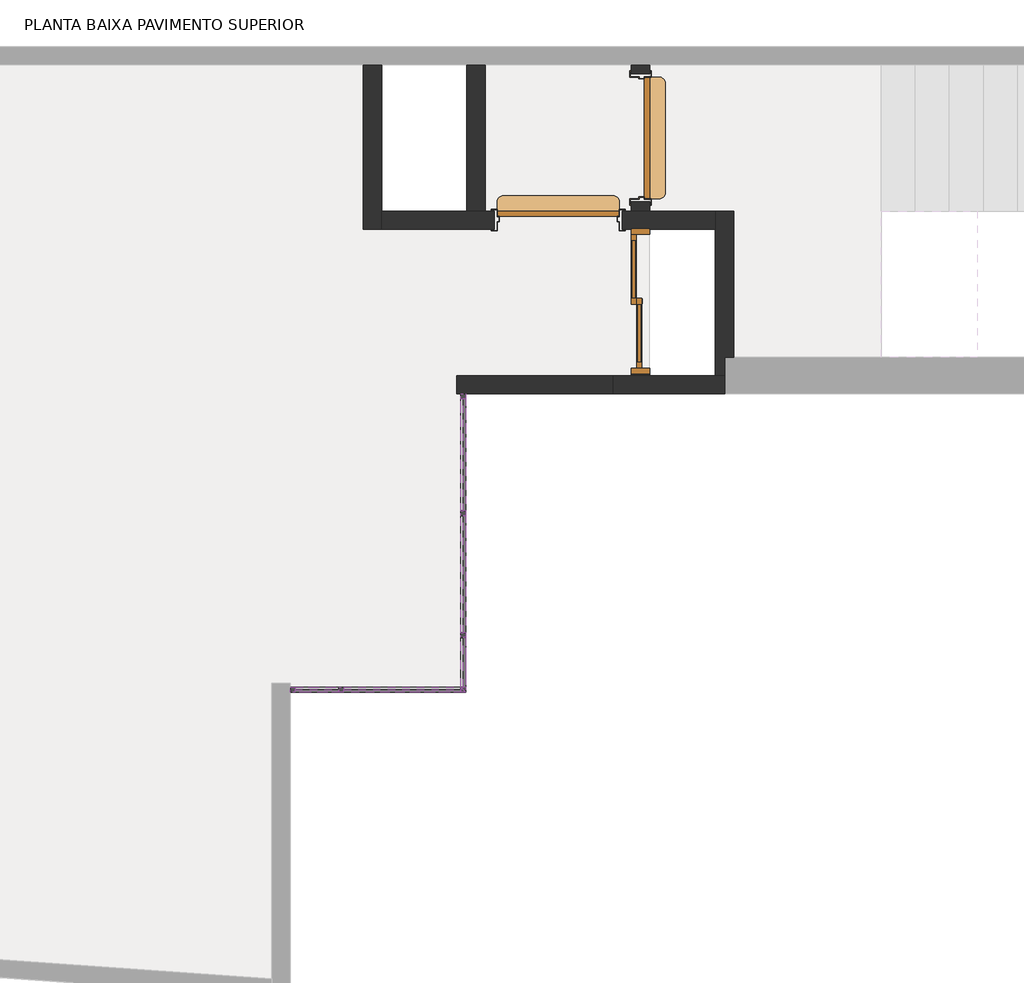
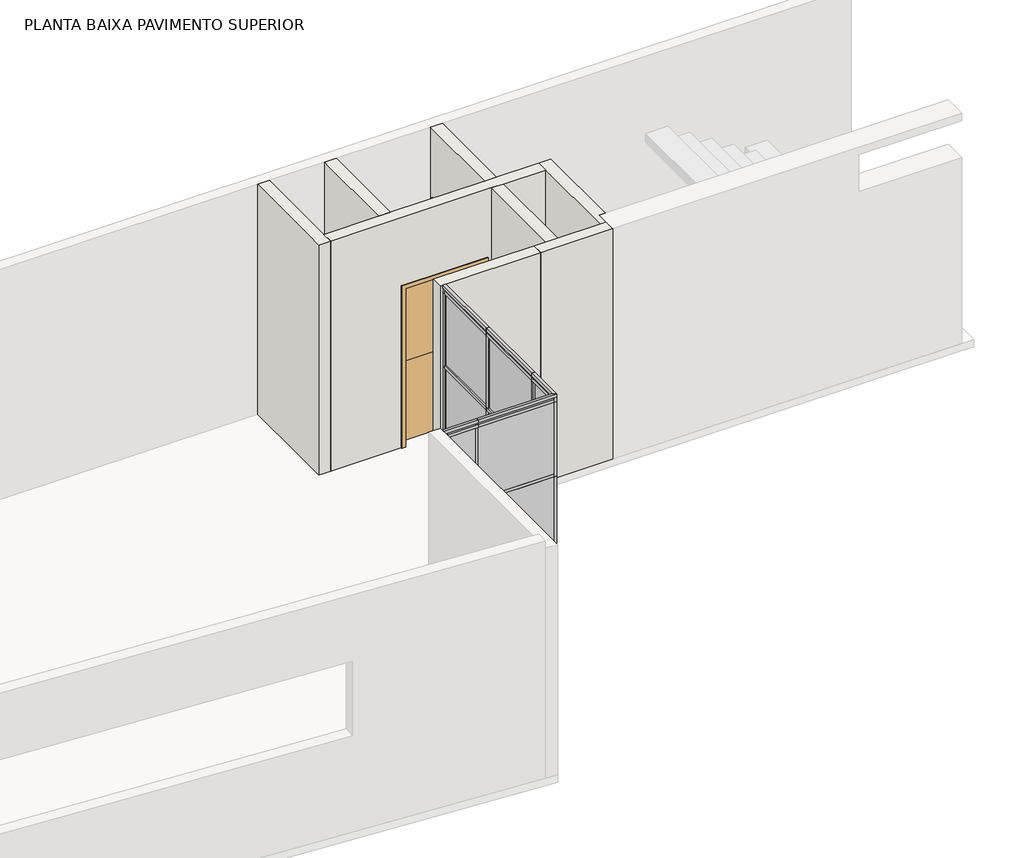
# One storey, part 3 of 4: 53 members, 20 plates, 8 walls, 3 doors.
"""IFC4 building model written with IfcOpenShell, lengths in millimetres."""

from ifc_helpers import new_model, si_unit, frame, origin, place, context, project, spatial, polyline, outline, extrude, faceted_brep, transform, mapped, element, save
from components import door_100_x_210_cm_7dd9b6bc, door_1200_x_2100mm_dfe7479b, rectangular_mullion_4x4_cm_offset_2cm_3eb18034, rectangular_mullion_4x4_cm_offset_2cm_f367b127, rectangular_mullion_4x4_cm_offset_2cm_0519d578, rectangular_mullion_4x4_cm_offset_2cm_ddc5f716, rectangular_mullion_4x4_cm_offset_2cm_dcd03643, rectangular_mullion_4x4_cm_offset_2cm_9d20afd9, rectangular_mullion_4x4_cm_offset_2cm_7fa27b69, rectangular_mullion_4x4_cm_offset_2cm_bcd7c595, rectangular_mullion_4x4_cm_offset_2cm_f339643f, rectangular_mullion_4x4_cm_offset_2cm_86c1dae4, rectangular_mullion_4x4_cm_offset_2cm_71549611, rectangular_mullion_4x4_cm_offset_2cm_498bcaa4, rectangular_mullion_4x4_cm_offset_2cm_4437fab8, rectangular_mullion_4x4_cm_offset_2cm_959dc065, rectangular_mullion_4x4_cm_offset_2cm_072c56ac, rectangular_mullion_4x4_cm_offset_2cm_564ef1b8, system_panel_vidro_2cm_7b007d6b, system_panel_vidro_2cm_5412c861, system_panel_vidro_2cm_9368d487, system_panel_vidro_2cm_80f5f5df, system_panel_vidro_2cm_fbaab53a, system_panel_vidro_2cm_d7178376, system_panel_vidro_2cm_d83b4e50, system_panel_vidro_2cm_3061dd5e

model = new_model("IFC4")

# Units and contexts
model_context = context("Model", 3, world=origin())
ifc_project = project(units=[si_unit("LENGTHUNIT", "METRE", prefix="MILLI")], contexts=[model_context])

# Site, building, storey
site = spatial("IfcSite", under=ifc_project)
building = spatial("IfcBuilding", under=site)
storey = spatial("IfcBuildingStorey", under=building, Name="PLANTA BAIXA PAVIMENTO SUPERIOR", Elevation=4000.0)

# Doors
placement = place(None, origin())
door_100_x_210_cm_shape = door_100_x_210_cm_7dd9b6bc(model_context)
element("IfcDoor", 1, ObjectType="Dutch_door_-_2_stacked_leaves_2298 : 100 x 210 cm", at=placement, inside=storey, context=model_context, shape_type="MappedRepresentation", body=[
    mapped(door_100_x_210_cm_shape, transform((36795.3673655, -4166.1116245, 4000.0), x_axis=(-1.0, 0.0, 0.0), y_axis=(0.0, -1.0, 0.0), z_axis=(0.0, 0.0, 1.0))),
])
element("IfcDoor", 2, ObjectType="Dutch_door_-_2_stacked_leaves_2298 : 100 x 210 cm", at=placement, inside=storey, context=model_context, shape_type="MappedRepresentation", body=[
    mapped(door_100_x_210_cm_shape, transform((37470.3673655, -3491.1116245, 4000.0), x_axis=(0.0, 1.0, 0.0), y_axis=(-1.0, 0.0, 0.0), z_axis=(0.0, 0.0, 1.0))),
])
door_1200_x_2100mm_shape = door_1200_x_2100mm_dfe7479b(model_context)
element("IfcDoor", 3, ObjectType="Porta veneziana de correr dupla sem revestimento : 1200 x 2100mm", at=placement, inside=storey, context=model_context, shape_type="MappedRepresentation", body=[
    mapped(door_1200_x_2100mm_shape, transform((37470.3673655, -4830.8070741, 4000.0), x_axis=(0.0, -1.0, 0.0), y_axis=(1.0, 0.0, 0.0), z_axis=(0.0, 0.0, 1.0))),
])

# Members
rectangular_mullion_4x4_cm_offset_2cm_shape = rectangular_mullion_4x4_cm_offset_2cm_3eb18034(model_context)
element("IfcMember", 4, ObjectType="Rectangular Mullion : 4x4 cm - offset 2cm", at=placement, inside=storey, context=model_context, shape_type="MappedRepresentation", body=[
    mapped(rectangular_mullion_4x4_cm_offset_2cm_shape, transform((35035.3673652, -8041.1116245, 5000.0), x_axis=(0.0, 0.0, 1.0), y_axis=(0.0, 1.0, 0.0), z_axis=(-1.0, 0.0, 0.0))),
])
element("IfcMember", 5, ObjectType="Rectangular Mullion : 4x4 cm - offset 2cm", at=placement, inside=storey, context=model_context, shape_type="MappedRepresentation", body=[
    mapped(rectangular_mullion_4x4_cm_offset_2cm_shape, transform((35035.3673652, -8041.1116245, 6000.0), x_axis=(0.0, 0.0, 1.0), y_axis=(0.0, 1.0, 0.0), z_axis=(-1.0, 0.0, 0.0))),
])
element("IfcMember", 6, ObjectType="Rectangular Mullion : 4x4 cm - offset 2cm", at=placement, inside=storey, context=model_context, shape_type="MappedRepresentation", body=[
    mapped(rectangular_mullion_4x4_cm_offset_2cm_shape, transform((35035.3673652, -8041.1116245, 7000.0), x_axis=(0.0, 0.0, 1.0), y_axis=(0.0, 1.0, 0.0), z_axis=(-1.0, 0.0, 0.0))),
])
rectangular_mullion_4x4_cm_offset_2cm_2_shape = rectangular_mullion_4x4_cm_offset_2cm_f367b127(model_context)
element("IfcMember", 7, ObjectType="Rectangular Mullion : 4x4 cm - offset 2cm", at=placement, inside=storey, context=model_context, shape_type="MappedRepresentation", body=[
    mapped(rectangular_mullion_4x4_cm_offset_2cm_2_shape, transform((36035.3673655, -6551.1116248, 4040.0), x_axis=(0.0, -1.0, 0.0), y_axis=(-1.0, 0.0, 0.0), z_axis=(0.0, 0.0, -1.0))),
])
element("IfcMember", 8, ObjectType="Rectangular Mullion : 4x4 cm - offset 2cm", at=placement, inside=storey, context=model_context, shape_type="MappedRepresentation", body=[
    mapped(rectangular_mullion_4x4_cm_offset_2cm_2_shape, transform((36035.3673655, -7551.1116248, 4040.0), x_axis=(0.0, -1.0, 0.0), y_axis=(-1.0, 0.0, 0.0), z_axis=(0.0, 0.0, -1.0))),
])
element("IfcMember", 9, ObjectType="Rectangular Mullion : 4x4 cm - offset 2cm", at=placement, inside=storey, context=model_context, shape_type="MappedRepresentation", body=[
    mapped(rectangular_mullion_4x4_cm_offset_2cm_2_shape, transform((36035.3673655, -6551.1116248, 5040.0), x_axis=(0.0, -1.0, 0.0), y_axis=(-1.0, 0.0, 0.0), z_axis=(0.0, 0.0, -1.0))),
])
element("IfcMember", 10, ObjectType="Rectangular Mullion : 4x4 cm - offset 2cm", at=placement, inside=storey, context=model_context, shape_type="MappedRepresentation", body=[
    mapped(rectangular_mullion_4x4_cm_offset_2cm_2_shape, transform((36035.3673655, -7551.1116248, 5040.0), x_axis=(0.0, -1.0, 0.0), y_axis=(-1.0, 0.0, 0.0), z_axis=(0.0, 0.0, -1.0))),
])
element("IfcMember", 11, ObjectType="Rectangular Mullion : 4x4 cm - offset 2cm", at=placement, inside=storey, context=model_context, shape_type="MappedRepresentation", body=[
    mapped(rectangular_mullion_4x4_cm_offset_2cm_2_shape, transform((36035.3673655, -6551.1116248, 6040.0), x_axis=(0.0, -1.0, 0.0), y_axis=(-1.0, 0.0, 0.0), z_axis=(0.0, 0.0, -1.0))),
])
element("IfcMember", 12, ObjectType="Rectangular Mullion : 4x4 cm - offset 2cm", at=placement, inside=storey, context=model_context, shape_type="MappedRepresentation", body=[
    mapped(rectangular_mullion_4x4_cm_offset_2cm_2_shape, transform((36035.3673655, -7551.1116248, 6040.0), x_axis=(0.0, -1.0, 0.0), y_axis=(-1.0, 0.0, 0.0), z_axis=(0.0, 0.0, -1.0))),
])
element("IfcMember", 13, ObjectType="Rectangular Mullion : 4x4 cm - offset 2cm", at=placement, inside=storey, context=model_context, shape_type="MappedRepresentation", body=[
    mapped(rectangular_mullion_4x4_cm_offset_2cm_2_shape, transform((35035.3673652, -8041.1116245, 4040.0), x_axis=(-1.0, 0.0, 0.0), y_axis=(0.0, 1.0, 0.0), z_axis=(0.0, 0.0, -1.0))),
])
element("IfcMember", 14, ObjectType="Rectangular Mullion : 4x4 cm - offset 2cm", at=placement, inside=storey, context=model_context, shape_type="MappedRepresentation", body=[
    mapped(rectangular_mullion_4x4_cm_offset_2cm_2_shape, transform((35035.3673652, -8041.1116245, 5040.0), x_axis=(-1.0, 0.0, 0.0), y_axis=(0.0, 1.0, 0.0), z_axis=(0.0, 0.0, -1.0))),
])
element("IfcMember", 15, ObjectType="Rectangular Mullion : 4x4 cm - offset 2cm", at=placement, inside=storey, context=model_context, shape_type="MappedRepresentation", body=[
    mapped(rectangular_mullion_4x4_cm_offset_2cm_2_shape, transform((35035.3673652, -8041.1116245, 6040.0), x_axis=(-1.0, 0.0, 0.0), y_axis=(0.0, 1.0, 0.0), z_axis=(0.0, 0.0, -1.0))),
])
rectangular_mullion_4x4_cm_offset_2cm_3_shape = rectangular_mullion_4x4_cm_offset_2cm_0519d578(model_context)
element("IfcMember", 16, ObjectType="Rectangular Mullion : 4x4 cm - offset 2cm", at=placement, inside=storey, context=model_context, shape_type="MappedRepresentation", body=[
    mapped(rectangular_mullion_4x4_cm_offset_2cm_3_shape, transform((36035.3673655, -8041.1116245, 4040.0), x_axis=(0.0, -1.0, 0.0), y_axis=(-1.0, 0.0, 0.0), z_axis=(0.0, 0.0, -1.0))),
])
element("IfcMember", 17, ObjectType="Rectangular Mullion : 4x4 cm - offset 2cm", at=placement, inside=storey, context=model_context, shape_type="MappedRepresentation", body=[
    mapped(rectangular_mullion_4x4_cm_offset_2cm_3_shape, transform((34595.3673655, -8041.1116245, 4040.0), x_axis=(-1.0, 0.0, 0.0), y_axis=(0.0, 1.0, 0.0), z_axis=(0.0, 0.0, -1.0))),
])
element("IfcMember", 18, ObjectType="Rectangular Mullion : 4x4 cm - offset 2cm", at=placement, inside=storey, context=model_context, shape_type="MappedRepresentation", body=[
    mapped(rectangular_mullion_4x4_cm_offset_2cm_3_shape, transform((36035.3673655, -5591.1116245, 5000.0), x_axis=(0.0, 1.0, 0.0), y_axis=(-1.0, 0.0, 0.0), z_axis=(0.0, 0.0, 1.0))),
])
element("IfcMember", 19, ObjectType="Rectangular Mullion : 4x4 cm - offset 2cm", at=placement, inside=storey, context=model_context, shape_type="MappedRepresentation", body=[
    mapped(rectangular_mullion_4x4_cm_offset_2cm_3_shape, transform((36035.3673655, -8041.1116245, 5000.0), x_axis=(1.0, 0.0, 0.0), y_axis=(0.0, 1.0, 0.0), z_axis=(0.0, 0.0, 1.0))),
])
rectangular_mullion_4x4_cm_offset_2cm_4_shape = rectangular_mullion_4x4_cm_offset_2cm_ddc5f716(model_context)
element("IfcMember", 20, ObjectType="Rectangular Mullion : 4x4 cm - offset 2cm", at=placement, inside=storey, context=model_context, shape_type="MappedRepresentation", body=[
    mapped(rectangular_mullion_4x4_cm_offset_2cm_4_shape, transform((36035.3673655, -6551.1116248, 4000.0), x_axis=(0.0, 0.0, -1.0), y_axis=(-1.0, 0.0, 0.0), z_axis=(0.0, 1.0, 0.0))),
])
rectangular_mullion_4x4_cm_offset_2cm_5_shape = rectangular_mullion_4x4_cm_offset_2cm_dcd03643(model_context)
element("IfcMember", 21, ObjectType="Rectangular Mullion : 4x4 cm - offset 2cm", at=placement, inside=storey, context=model_context, shape_type="MappedRepresentation", body=[
    mapped(rectangular_mullion_4x4_cm_offset_2cm_5_shape, transform((36035.3673655, -7551.1116248, 5000.0), x_axis=(0.0, 0.0, 1.0), y_axis=(-1.0, 0.0, 0.0), z_axis=(0.0, -1.0, 0.0))),
])
element("IfcMember", 22, ObjectType="Rectangular Mullion : 4x4 cm - offset 2cm", at=placement, inside=storey, context=model_context, shape_type="MappedRepresentation", body=[
    mapped(rectangular_mullion_4x4_cm_offset_2cm_5_shape, transform((36035.3673655, -7551.1116248, 6000.0), x_axis=(0.0, 0.0, 1.0), y_axis=(-1.0, 0.0, 0.0), z_axis=(0.0, -1.0, 0.0))),
])
element("IfcMember", 23, ObjectType="Rectangular Mullion : 4x4 cm - offset 2cm", at=placement, inside=storey, context=model_context, shape_type="MappedRepresentation", body=[
    mapped(rectangular_mullion_4x4_cm_offset_2cm_5_shape, transform((36035.3673655, -7551.1116248, 7000.0), x_axis=(0.0, 0.0, 1.0), y_axis=(-1.0, 0.0, 0.0), z_axis=(0.0, -1.0, 0.0))),
])
element("IfcMember", 24, ObjectType="Rectangular Mullion : 4x4 cm - offset 2cm", at=placement, inside=storey, context=model_context, shape_type="MappedRepresentation", body=[
    mapped(rectangular_mullion_4x4_cm_offset_2cm_4_shape, transform((36035.3673655, -7551.1116248, 7100.0), x_axis=(0.0, 0.0, 1.0), y_axis=(-1.0, 0.0, 0.0), z_axis=(0.0, -1.0, 0.0))),
])
element("IfcMember", 25, ObjectType="Rectangular Mullion : 4x4 cm - offset 2cm", at=placement, inside=storey, context=model_context, shape_type="MappedRepresentation", body=[
    mapped(rectangular_mullion_4x4_cm_offset_2cm_4_shape, transform((36035.3673655, -8041.1116245, 5000.0), x_axis=(0.0, -1.0, 0.0), y_axis=(-1.0, 0.0, 0.0), z_axis=(0.0, 0.0, -1.0))),
])
element("IfcMember", 26, ObjectType="Rectangular Mullion : 4x4 cm - offset 2cm", at=placement, inside=storey, context=model_context, shape_type="MappedRepresentation", body=[
    mapped(rectangular_mullion_4x4_cm_offset_2cm_4_shape, transform((36035.3673655, -8041.1116245, 6000.0), x_axis=(0.0, -1.0, 0.0), y_axis=(-1.0, 0.0, 0.0), z_axis=(0.0, 0.0, -1.0))),
])
element("IfcMember", 27, ObjectType="Rectangular Mullion : 4x4 cm - offset 2cm", at=placement, inside=storey, context=model_context, shape_type="MappedRepresentation", body=[
    mapped(rectangular_mullion_4x4_cm_offset_2cm_4_shape, transform((34595.3673655, -8041.1116245, 5000.0), x_axis=(-1.0, 0.0, 0.0), y_axis=(0.0, 1.0, 0.0), z_axis=(0.0, 0.0, -1.0))),
])
element("IfcMember", 28, ObjectType="Rectangular Mullion : 4x4 cm - offset 2cm", at=placement, inside=storey, context=model_context, shape_type="MappedRepresentation", body=[
    mapped(rectangular_mullion_4x4_cm_offset_2cm_4_shape, transform((34595.3673655, -8041.1116245, 6000.0), x_axis=(-1.0, 0.0, 0.0), y_axis=(0.0, 1.0, 0.0), z_axis=(0.0, 0.0, -1.0))),
])
element("IfcMember", 29, ObjectType="Rectangular Mullion : 4x4 cm - offset 2cm", at=placement, inside=storey, context=model_context, shape_type="MappedRepresentation", body=[
    mapped(rectangular_mullion_4x4_cm_offset_2cm_4_shape, transform((36035.3673655, -5591.1116245, 6000.0), x_axis=(0.0, 1.0, 0.0), y_axis=(-1.0, 0.0, 0.0), z_axis=(0.0, 0.0, 1.0))),
])
element("IfcMember", 30, ObjectType="Rectangular Mullion : 4x4 cm - offset 2cm", at=placement, inside=storey, context=model_context, shape_type="MappedRepresentation", body=[
    mapped(rectangular_mullion_4x4_cm_offset_2cm_4_shape, transform((36035.3673655, -5591.1116245, 7000.0), x_axis=(0.0, 1.0, 0.0), y_axis=(-1.0, 0.0, 0.0), z_axis=(0.0, 0.0, 1.0))),
])
element("IfcMember", 31, ObjectType="Rectangular Mullion : 4x4 cm - offset 2cm", at=placement, inside=storey, context=model_context, shape_type="MappedRepresentation", body=[
    mapped(rectangular_mullion_4x4_cm_offset_2cm_4_shape, transform((36035.3673655, -8041.1116245, 6000.0), x_axis=(1.0, 0.0, 0.0), y_axis=(0.0, 1.0, 0.0), z_axis=(0.0, 0.0, 1.0))),
])
element("IfcMember", 32, ObjectType="Rectangular Mullion : 4x4 cm - offset 2cm", at=placement, inside=storey, context=model_context, shape_type="MappedRepresentation", body=[
    mapped(rectangular_mullion_4x4_cm_offset_2cm_4_shape, transform((36035.3673655, -8041.1116245, 7000.0), x_axis=(1.0, 0.0, 0.0), y_axis=(0.0, 1.0, 0.0), z_axis=(0.0, 0.0, 1.0))),
])
rectangular_mullion_4x4_cm_offset_2cm_6_shape = rectangular_mullion_4x4_cm_offset_2cm_9d20afd9(model_context)
element("IfcMember", 33, ObjectType="Rectangular Mullion : 4x4 cm - offset 2cm", at=placement, inside=storey, context=model_context, shape_type="MappedRepresentation", body=[
    mapped(rectangular_mullion_4x4_cm_offset_2cm_6_shape, transform((36035.3673655, -6551.1116248, 7040.0), x_axis=(0.0, -1.0, 0.0), y_axis=(-1.0, 0.0, 0.0), z_axis=(0.0, 0.0, -1.0))),
])
element("IfcMember", 34, ObjectType="Rectangular Mullion : 4x4 cm - offset 2cm", at=placement, inside=storey, context=model_context, shape_type="MappedRepresentation", body=[
    mapped(rectangular_mullion_4x4_cm_offset_2cm_6_shape, transform((36035.3673655, -7551.1116248, 7040.0), x_axis=(0.0, -1.0, 0.0), y_axis=(-1.0, 0.0, 0.0), z_axis=(0.0, 0.0, -1.0))),
])
element("IfcMember", 35, ObjectType="Rectangular Mullion : 4x4 cm - offset 2cm", at=placement, inside=storey, context=model_context, shape_type="MappedRepresentation", body=[
    mapped(rectangular_mullion_4x4_cm_offset_2cm_6_shape, transform((35035.3673652, -8041.1116245, 7040.0), x_axis=(-1.0, 0.0, 0.0), y_axis=(0.0, 1.0, 0.0), z_axis=(0.0, 0.0, -1.0))),
])
rectangular_mullion_4x4_cm_offset_2cm_7_shape = rectangular_mullion_4x4_cm_offset_2cm_7fa27b69(model_context)
element("IfcMember", 36, ObjectType="Rectangular Mullion : 4x4 cm - offset 2cm", at=placement, inside=storey, context=model_context, shape_type="MappedRepresentation", body=[
    mapped(rectangular_mullion_4x4_cm_offset_2cm_7_shape, transform((36035.3673655, -5591.1116245, 7060.0), x_axis=(0.0, 1.0, 0.0), y_axis=(-1.0, 0.0, 0.0), z_axis=(0.0, 0.0, 1.0))),
])
element("IfcMember", 37, ObjectType="Rectangular Mullion : 4x4 cm - offset 2cm", at=placement, inside=storey, context=model_context, shape_type="MappedRepresentation", body=[
    mapped(rectangular_mullion_4x4_cm_offset_2cm_7_shape, transform((36035.3673655, -8041.1116245, 7060.0), x_axis=(1.0, 0.0, 0.0), y_axis=(0.0, 1.0, 0.0), z_axis=(0.0, 0.0, 1.0))),
])
element("IfcMember", 38, ObjectType="Rectangular Mullion : 4x4 cm - offset 2cm", at=placement, inside=storey, context=model_context, shape_type="MappedRepresentation", body=[
    mapped(rectangular_mullion_4x4_cm_offset_2cm_7_shape, transform((36035.3673655, -8041.1116245, 7000.0), x_axis=(0.0, -1.0, 0.0), y_axis=(-1.0, 0.0, 0.0), z_axis=(0.0, 0.0, -1.0))),
])
element("IfcMember", 39, ObjectType="Rectangular Mullion : 4x4 cm - offset 2cm", at=placement, inside=storey, context=model_context, shape_type="MappedRepresentation", body=[
    mapped(rectangular_mullion_4x4_cm_offset_2cm_7_shape, transform((34595.3673655, -8041.1116245, 7000.0), x_axis=(-1.0, 0.0, 0.0), y_axis=(0.0, 1.0, 0.0), z_axis=(0.0, 0.0, -1.0))),
])
rectangular_mullion_4x4_cm_offset_2cm_8_shape = rectangular_mullion_4x4_cm_offset_2cm_bcd7c595(model_context)
element("IfcMember", 40, ObjectType="Rectangular Mullion : 4x4 cm - offset 2cm", at=placement, inside=storey, context=model_context, shape_type="MappedRepresentation", body=[
    mapped(rectangular_mullion_4x4_cm_offset_2cm_8_shape, transform((36035.3673655, -5591.1116245, 4000.0), x_axis=(0.0, 0.0, -1.0), y_axis=(-1.0, 0.0, 0.0), z_axis=(0.0, 1.0, 0.0))),
])
element("IfcMember", 41, ObjectType="Rectangular Mullion : 4x4 cm - offset 2cm", at=placement, inside=storey, context=model_context, shape_type="MappedRepresentation", body=[
    mapped(rectangular_mullion_4x4_cm_offset_2cm_8_shape, transform((36035.3673655, -6551.1116248, 7100.0), x_axis=(0.0, 0.0, 1.0), y_axis=(-1.0, 0.0, 0.0), z_axis=(0.0, -1.0, 0.0))),
])
rectangular_mullion_4x4_cm_offset_2cm_9_shape = rectangular_mullion_4x4_cm_offset_2cm_f339643f(model_context)
element("IfcMember", 42, ObjectType="Rectangular Mullion : 4x4 cm - offset 2cm", at=placement, inside=storey, context=model_context, shape_type="MappedRepresentation", body=[
    mapped(rectangular_mullion_4x4_cm_offset_2cm_9_shape, transform((36035.3673655, -6551.1116248, 5000.0), x_axis=(0.0, 0.0, 1.0), y_axis=(-1.0, 0.0, 0.0), z_axis=(0.0, -1.0, 0.0))),
])
element("IfcMember", 43, ObjectType="Rectangular Mullion : 4x4 cm - offset 2cm", at=placement, inside=storey, context=model_context, shape_type="MappedRepresentation", body=[
    mapped(rectangular_mullion_4x4_cm_offset_2cm_9_shape, transform((36035.3673655, -6551.1116248, 6000.0), x_axis=(0.0, 0.0, 1.0), y_axis=(-1.0, 0.0, 0.0), z_axis=(0.0, -1.0, 0.0))),
])
element("IfcMember", 44, ObjectType="Rectangular Mullion : 4x4 cm - offset 2cm", at=placement, inside=storey, context=model_context, shape_type="MappedRepresentation", body=[
    mapped(rectangular_mullion_4x4_cm_offset_2cm_9_shape, transform((36035.3673655, -6551.1116248, 7000.0), x_axis=(0.0, 0.0, 1.0), y_axis=(-1.0, 0.0, 0.0), z_axis=(0.0, -1.0, 0.0))),
])
rectangular_mullion_4x4_cm_offset_2cm_10_shape = rectangular_mullion_4x4_cm_offset_2cm_86c1dae4(model_context)
element("IfcMember", 45, ObjectType="Rectangular Mullion : 4x4 cm - offset 2cm", at=placement, inside=storey, context=model_context, shape_type="MappedRepresentation", body=[
    mapped(rectangular_mullion_4x4_cm_offset_2cm_10_shape, transform((36035.3673655, -8001.1116245, 5000.0), x_axis=(0.0, 0.0, 1.0), y_axis=(-1.0, 0.0, 0.0), z_axis=(0.0, -1.0, 0.0))),
])
element("IfcMember", 46, ObjectType="Rectangular Mullion : 4x4 cm - offset 2cm", at=placement, inside=storey, context=model_context, shape_type="MappedRepresentation", body=[
    mapped(rectangular_mullion_4x4_cm_offset_2cm_10_shape, transform((36035.3673655, -8001.1116245, 6000.0), x_axis=(0.0, 0.0, 1.0), y_axis=(-1.0, 0.0, 0.0), z_axis=(0.0, -1.0, 0.0))),
])
element("IfcMember", 47, ObjectType="Rectangular Mullion : 4x4 cm - offset 2cm", at=placement, inside=storey, context=model_context, shape_type="MappedRepresentation", body=[
    mapped(rectangular_mullion_4x4_cm_offset_2cm_10_shape, transform((36035.3673655, -8001.1116245, 7000.0), x_axis=(0.0, 0.0, 1.0), y_axis=(-1.0, 0.0, 0.0), z_axis=(0.0, -1.0, 0.0))),
])
rectangular_mullion_4x4_cm_offset_2cm_11_shape = rectangular_mullion_4x4_cm_offset_2cm_71549611(model_context)
element("IfcMember", 48, ObjectType="Rectangular Mullion : 4x4 cm - offset 2cm", at=placement, inside=storey, context=model_context, shape_type="MappedRepresentation", body=[
    mapped(rectangular_mullion_4x4_cm_offset_2cm_11_shape, transform((34595.3673655, -8041.1116245, 7100.0), x_axis=(0.0, 0.0, 1.0), y_axis=(0.0, 1.0, 0.0), z_axis=(-1.0, 0.0, 0.0))),
])
element("IfcMember", 49, ObjectType="Rectangular Mullion : 4x4 cm - offset 2cm", at=placement, inside=storey, context=model_context, shape_type="MappedRepresentation", body=[
    mapped(rectangular_mullion_4x4_cm_offset_2cm_11_shape, transform((35035.3673652, -8041.1116245, 4000.0), x_axis=(0.0, 0.0, -1.0), y_axis=(0.0, 1.0, 0.0), z_axis=(1.0, 0.0, 0.0))),
])
rectangular_mullion_4x4_cm_offset_2cm_12_shape = rectangular_mullion_4x4_cm_offset_2cm_498bcaa4(model_context)
element("IfcMember", 50, ObjectType="Rectangular Mullion : 4x4 cm - offset 2cm", at=placement, inside=storey, context=model_context, shape_type="MappedRepresentation", body=[
    mapped(rectangular_mullion_4x4_cm_offset_2cm_12_shape, transform((34635.3673655, -8041.1116245, 5000.0), x_axis=(0.0, 0.0, 1.0), y_axis=(0.0, 1.0, 0.0), z_axis=(-1.0, 0.0, 0.0))),
])
element("IfcMember", 51, ObjectType="Rectangular Mullion : 4x4 cm - offset 2cm", at=placement, inside=storey, context=model_context, shape_type="MappedRepresentation", body=[
    mapped(rectangular_mullion_4x4_cm_offset_2cm_12_shape, transform((34635.3673655, -8041.1116245, 6000.0), x_axis=(0.0, 0.0, 1.0), y_axis=(0.0, 1.0, 0.0), z_axis=(-1.0, 0.0, 0.0))),
])
element("IfcMember", 52, ObjectType="Rectangular Mullion : 4x4 cm - offset 2cm", at=placement, inside=storey, context=model_context, shape_type="MappedRepresentation", body=[
    mapped(rectangular_mullion_4x4_cm_offset_2cm_12_shape, transform((34635.3673655, -8041.1116245, 7000.0), x_axis=(0.0, 0.0, 1.0), y_axis=(0.0, 1.0, 0.0), z_axis=(-1.0, 0.0, 0.0))),
])
rectangular_mullion_4x4_cm_offset_2cm_13_shape = rectangular_mullion_4x4_cm_offset_2cm_4437fab8(model_context)
element("IfcMember", 53, ObjectType="Rectangular Mullion : 4x4 cm - offset 2cm", at=placement, inside=storey, context=model_context, shape_type="MappedRepresentation", body=[
    mapped(rectangular_mullion_4x4_cm_offset_2cm_13_shape, transform((36035.3673655, -8041.1116245, 7100.0), x_axis=(0.0, 0.0, 1.0), y_axis=(-1.0, 0.0, 0.0), z_axis=(0.0, -1.0, 0.0))),
])
rectangular_mullion_4x4_cm_offset_2cm_14_shape = rectangular_mullion_4x4_cm_offset_2cm_959dc065(model_context)
element("IfcMember", 54, ObjectType="Rectangular Mullion : 4x4 cm - offset 2cm", at=placement, inside=storey, context=model_context, shape_type="MappedRepresentation", body=[
    mapped(rectangular_mullion_4x4_cm_offset_2cm_14_shape, transform((35035.3673652, -8041.1116245, 7100.0), x_axis=(0.0, 0.0, 1.0), y_axis=(0.0, 1.0, 0.0), z_axis=(-1.0, 0.0, 0.0))),
])
rectangular_mullion_4x4_cm_offset_2cm_15_shape = rectangular_mullion_4x4_cm_offset_2cm_072c56ac(model_context)
element("IfcMember", 55, ObjectType="Rectangular Mullion : 4x4 cm - offset 2cm", at=placement, inside=storey, context=model_context, shape_type="MappedRepresentation", body=[
    mapped(rectangular_mullion_4x4_cm_offset_2cm_15_shape, transform((36035.3673655, -7551.1116248, 4000.0), x_axis=(0.0, 0.0, -1.0), y_axis=(-1.0, 0.0, 0.0), z_axis=(0.0, 1.0, 0.0))),
])
rectangular_mullion_4x4_cm_offset_2cm_16_shape = rectangular_mullion_4x4_cm_offset_2cm_564ef1b8(model_context)
element("IfcMember", 56, ObjectType="Rectangular Mullion : 4x4 cm - offset 2cm", at=placement, inside=storey, context=model_context, shape_type="MappedRepresentation", body=[
    mapped(rectangular_mullion_4x4_cm_offset_2cm_16_shape, transform((36035.3673655, -8041.1116245, 4000.0), x_axis=(0.0, 0.0, -1.0), y_axis=(0.0, 1.0, 0.0), z_axis=(1.0, 0.0, 0.0))),
])

# Plates
system_panel_vidro_2cm_shape = system_panel_vidro_2cm_7b007d6b(model_context)
element("IfcPlate", 57, ObjectType="System Panel : Vidro 2cm", at=placement, inside=storey, context=model_context, shape_type="MappedRepresentation", body=[
    mapped(system_panel_vidro_2cm_shape, transform((36035.3673655, -7071.1116248, 4040.0), x_axis=(0.0, -1.0, 0.0), y_axis=(1.0, 0.0, 0.0), z_axis=(0.0, 0.0, 1.0))),
])
element("IfcPlate", 58, ObjectType="System Panel : Vidro 2cm", at=placement, inside=storey, context=model_context, shape_type="MappedRepresentation", body=[
    mapped(system_panel_vidro_2cm_shape, transform((36035.3673655, -7071.1116248, 5040.0), x_axis=(0.0, -1.0, 0.0), y_axis=(1.0, 0.0, 0.0), z_axis=(0.0, 0.0, 1.0))),
])
element("IfcPlate", 59, ObjectType="System Panel : Vidro 2cm", at=placement, inside=storey, context=model_context, shape_type="MappedRepresentation", body=[
    mapped(system_panel_vidro_2cm_shape, transform((36035.3673655, -7071.1116248, 6040.0), x_axis=(0.0, -1.0, 0.0), y_axis=(1.0, 0.0, 0.0), z_axis=(0.0, 0.0, 1.0))),
])
element("IfcPlate", 60, ObjectType="System Panel : Vidro 2cm", at=placement, inside=storey, context=model_context, shape_type="MappedRepresentation", body=[
    mapped(system_panel_vidro_2cm_shape, transform((35515.3673654, -8041.1116245, 4040.0), x_axis=(-1.0, 0.0, 0.0), y_axis=(0.0, -1.0, 0.0), z_axis=(0.0, 0.0, 1.0))),
])
element("IfcPlate", 61, ObjectType="System Panel : Vidro 2cm", at=placement, inside=storey, context=model_context, shape_type="MappedRepresentation", body=[
    mapped(system_panel_vidro_2cm_shape, transform((35515.3673654, -8041.1116245, 5040.0), x_axis=(-1.0, 0.0, 0.0), y_axis=(0.0, -1.0, 0.0), z_axis=(0.0, 0.0, 1.0))),
])
element("IfcPlate", 62, ObjectType="System Panel : Vidro 2cm", at=placement, inside=storey, context=model_context, shape_type="MappedRepresentation", body=[
    mapped(system_panel_vidro_2cm_shape, transform((35515.3673654, -8041.1116245, 6040.0), x_axis=(-1.0, 0.0, 0.0), y_axis=(0.0, -1.0, 0.0), z_axis=(0.0, 0.0, 1.0))),
])
system_panel_vidro_2cm_2_shape = system_panel_vidro_2cm_5412c861(model_context)
element("IfcPlate", 63, ObjectType="System Panel : Vidro 2cm", at=placement, inside=storey, context=model_context, shape_type="MappedRepresentation", body=[
    mapped(system_panel_vidro_2cm_2_shape, transform((36035.3673655, -7071.1116248, 7040.0), x_axis=(0.0, -1.0, 0.0), y_axis=(1.0, 0.0, 0.0), z_axis=(0.0, 0.0, 1.0))),
])
element("IfcPlate", 64, ObjectType="System Panel : Vidro 2cm", at=placement, inside=storey, context=model_context, shape_type="MappedRepresentation", body=[
    mapped(system_panel_vidro_2cm_2_shape, transform((35515.3673654, -8041.1116245, 7040.0), x_axis=(-1.0, 0.0, 0.0), y_axis=(0.0, -1.0, 0.0), z_axis=(0.0, 0.0, 1.0))),
])
system_panel_vidro_2cm_3_shape = system_panel_vidro_2cm_9368d487(model_context)
element("IfcPlate", 65, ObjectType="System Panel : Vidro 2cm", at=placement, inside=storey, context=model_context, shape_type="MappedRepresentation", body=[
    mapped(system_panel_vidro_2cm_3_shape, transform((36035.3673655, -6091.1116247, 4040.0), x_axis=(0.0, -1.0, 0.0), y_axis=(1.0, 0.0, 0.0), z_axis=(0.0, 0.0, 1.0))),
])
element("IfcPlate", 66, ObjectType="System Panel : Vidro 2cm", at=placement, inside=storey, context=model_context, shape_type="MappedRepresentation", body=[
    mapped(system_panel_vidro_2cm_3_shape, transform((36035.3673655, -6091.1116247, 5040.0), x_axis=(0.0, -1.0, 0.0), y_axis=(1.0, 0.0, 0.0), z_axis=(0.0, 0.0, 1.0))),
])
element("IfcPlate", 67, ObjectType="System Panel : Vidro 2cm", at=placement, inside=storey, context=model_context, shape_type="MappedRepresentation", body=[
    mapped(system_panel_vidro_2cm_3_shape, transform((36035.3673655, -6091.1116247, 6040.0), x_axis=(0.0, -1.0, 0.0), y_axis=(1.0, 0.0, 0.0), z_axis=(0.0, 0.0, 1.0))),
])
system_panel_vidro_2cm_4_shape = system_panel_vidro_2cm_80f5f5df(model_context)
element("IfcPlate", 68, ObjectType="System Panel : Vidro 2cm", at=placement, inside=storey, context=model_context, shape_type="MappedRepresentation", body=[
    mapped(system_panel_vidro_2cm_4_shape, transform((36035.3673655, -7796.1116247, 4040.0), x_axis=(0.0, -1.0, 0.0), y_axis=(1.0, 0.0, 0.0), z_axis=(0.0, 0.0, 1.0))),
])
element("IfcPlate", 69, ObjectType="System Panel : Vidro 2cm", at=placement, inside=storey, context=model_context, shape_type="MappedRepresentation", body=[
    mapped(system_panel_vidro_2cm_4_shape, transform((36035.3673655, -7796.1116247, 5040.0), x_axis=(0.0, -1.0, 0.0), y_axis=(1.0, 0.0, 0.0), z_axis=(0.0, 0.0, 1.0))),
])
element("IfcPlate", 70, ObjectType="System Panel : Vidro 2cm", at=placement, inside=storey, context=model_context, shape_type="MappedRepresentation", body=[
    mapped(system_panel_vidro_2cm_4_shape, transform((36035.3673655, -7796.1116247, 6040.0), x_axis=(0.0, -1.0, 0.0), y_axis=(1.0, 0.0, 0.0), z_axis=(0.0, 0.0, 1.0))),
])
system_panel_vidro_2cm_5_shape = system_panel_vidro_2cm_fbaab53a(model_context)
element("IfcPlate", 71, ObjectType="System Panel : Vidro 2cm", at=placement, inside=storey, context=model_context, shape_type="MappedRepresentation", body=[
    mapped(system_panel_vidro_2cm_5_shape, transform((34815.3673654, -8041.1116245, 4040.0), x_axis=(-1.0, 0.0, 0.0), y_axis=(0.0, -1.0, 0.0), z_axis=(0.0, 0.0, 1.0))),
])
element("IfcPlate", 72, ObjectType="System Panel : Vidro 2cm", at=placement, inside=storey, context=model_context, shape_type="MappedRepresentation", body=[
    mapped(system_panel_vidro_2cm_5_shape, transform((34815.3673654, -8041.1116245, 5040.0), x_axis=(-1.0, 0.0, 0.0), y_axis=(0.0, -1.0, 0.0), z_axis=(0.0, 0.0, 1.0))),
])
element("IfcPlate", 73, ObjectType="System Panel : Vidro 2cm", at=placement, inside=storey, context=model_context, shape_type="MappedRepresentation", body=[
    mapped(system_panel_vidro_2cm_5_shape, transform((34815.3673654, -8041.1116245, 6040.0), x_axis=(-1.0, 0.0, 0.0), y_axis=(0.0, -1.0, 0.0), z_axis=(0.0, 0.0, 1.0))),
])
system_panel_vidro_2cm_6_shape = system_panel_vidro_2cm_d7178376(model_context)
element("IfcPlate", 74, ObjectType="System Panel : Vidro 2cm", at=placement, inside=storey, context=model_context, shape_type="MappedRepresentation", body=[
    mapped(system_panel_vidro_2cm_6_shape, transform((34815.3673654, -8041.1116245, 7040.0), x_axis=(-1.0, 0.0, 0.0), y_axis=(0.0, -1.0, 0.0), z_axis=(0.0, 0.0, 1.0))),
])
system_panel_vidro_2cm_7_shape = system_panel_vidro_2cm_d83b4e50(model_context)
element("IfcPlate", 75, ObjectType="System Panel : Vidro 2cm", at=placement, inside=storey, context=model_context, shape_type="MappedRepresentation", body=[
    mapped(system_panel_vidro_2cm_7_shape, transform((36035.3673655, -6091.1116247, 7040.0), x_axis=(0.0, -1.0, 0.0), y_axis=(1.0, 0.0, 0.0), z_axis=(0.0, 0.0, 1.0))),
])
system_panel_vidro_2cm_8_shape = system_panel_vidro_2cm_3061dd5e(model_context)
element("IfcPlate", 76, ObjectType="System Panel : Vidro 2cm", at=placement, inside=storey, context=model_context, shape_type="MappedRepresentation", body=[
    mapped(system_panel_vidro_2cm_8_shape, transform((36035.3673655, -7796.1116247, 7040.0), x_axis=(0.0, -1.0, 0.0), y_axis=(1.0, 0.0, 0.0), z_axis=(0.0, 0.0, 1.0))),
])

# Walls
element("IfcWall", 77, ObjectType="Genérica - 15cm", at=placement, inside=storey, context=model_context, shape_type="Brep", body=[
    faceted_brep([(38235.3673655, -5291.1116245, 4000.0), (38235.3673655, -4091.1116245, 4000.0), (38235.3673655, -4091.1116245, 7100.0), (38235.3673655, -5291.1116245, 7100.0), (38085.3673655, -5441.1116245, 4000.0), (38085.3673655, -5441.1116245, 7100.0), (38085.3673655, -4241.1116245, 7100.0), (38085.3673655, -4091.1116245, 7100.0), (38085.3673655, -4091.1116245, 4000.0), (38085.3673655, -4241.1116245, 4000.0), (38160.3673655, -5291.1116245, 4000.0), (38160.3673655, -5441.1116245, 4000.0), (38160.3673655, -5291.1116245, 7100.0), (38160.3673655, -5441.1116245, 7100.0)], [[[0, 1, 2, 3]], [[4, 5, 6, 7, 8, 9]], [[1, 0, 10, 11, 4, 9, 8]], [[0, 3, 12, 10]], [[12, 13, 11, 10]], [[13, 5, 4, 11]], [[2, 1, 8, 7]], [[3, 2, 7, 6, 5, 13, 12]]]),
])
element("IfcWall", 78, ObjectType="Genérica - 15cm", at=placement, inside=storey, context=model_context, shape_type="Brep", body=[
    faceted_brep([(38160.3673655, -5441.1116245, 4000.0), (38085.3673655, -5441.1116245, 4000.0), (37545.3673655, -5441.1116245, 4000.0), (37395.3673655, -5441.1116245, 4000.0), (37240.3673655, -5441.1116245, 4000.0), (37240.3673655, -5441.1116245, 7100.0), (37395.3673655, -5441.1116245, 7100.0), (37545.3673655, -5441.1116245, 7100.0), (38085.3673655, -5441.1116245, 7100.0), (38160.3673655, -5441.1116245, 7100.0), (38160.3673655, -5591.1116245, 4000.0), (38160.3673655, -5591.1116245, 7100.0), (37240.3673655, -5591.1116245, 7100.0), (37240.3673655, -5591.1116245, 4000.0)], [[[0, 1, 2, 3, 4, 5, 6, 7, 8, 9]], [[10, 11, 12, 13]], [[4, 3, 2, 1, 0, 10, 13]], [[5, 4, 13, 12]], [[0, 9, 11, 10]], [[9, 8, 7, 6, 5, 12, 11]]]),
])
element("IfcWall", 79, ObjectType="Genérica - 15cm", at=placement, inside=storey, context=model_context, shape_type="Brep", body=[
    faceted_brep([(38085.3673655, -4241.1116245, 4000.0), (38085.3673655, -4241.1116245, 7100.0), (37545.3673655, -4241.1116245, 7100.0), (37395.3673655, -4241.1116245, 7100.0), (35345.3673655, -4241.1116245, 7100.0), (35345.3673655, -4241.1116245, 4000.0), (36269.9673655, -4241.1116245, 4000.0), (36269.9673655, -4241.1116245, 6159.0), (37320.7673655, -4241.1116245, 6159.0), (37320.7673655, -4241.1116245, 4000.0), (37395.3673655, -4241.1116245, 4000.0), (37395.3673655, -4241.1116245, 6100.0), (37545.3673655, -4241.1116245, 6100.0), (37545.3673655, -4241.1116245, 4000.0), (38085.3673655, -4091.1116245, 7100.0), (38085.3673655, -4091.1116245, 4000.0), (37545.3673655, -4091.1116245, 4000.0), (37395.3673655, -4091.1116245, 4000.0), (37320.7673655, -4091.1116245, 4000.0), (37320.7673655, -4091.1116245, 6159.0), (36269.9673655, -4091.1116245, 6159.0), (36269.9673655, -4091.1116245, 4000.0), (36195.3673655, -4091.1116245, 4000.0), (36045.3673655, -4091.1116245, 4000.0), (35345.3673655, -4091.1116245, 4000.0), (35345.3673655, -4091.1116245, 7100.0), (36045.3673655, -4091.1116245, 7100.0), (36195.3673655, -4091.1116245, 7100.0), (37395.3673655, -4091.1116245, 7100.0), (37545.3673655, -4091.1116245, 7100.0), (37545.3673655, -4230.8070741, 4000.0), (37395.3673655, -4230.8070741, 4000.0), (37395.3673655, -4230.8070741, 6100.0), (37545.3673655, -4230.8070741, 6100.0)], [[[0, 1, 2, 3, 4, 5, 6, 7, 8, 9, 10, 11, 12, 13]], [[14, 15, 16, 17, 18, 19, 20, 21, 22, 23, 24, 25, 26, 27, 28, 29]], [[15, 0, 13, 30, 31, 10, 9, 18, 17, 16]], [[5, 24, 23, 22, 21, 6]], [[1, 0, 15, 14]], [[5, 4, 25, 24]], [[1, 14, 29, 28, 27, 26, 25, 4, 3, 2]], [[7, 6, 21, 20]], [[8, 7, 20, 19]], [[9, 8, 19, 18]], [[31, 32, 11, 10]], [[33, 30, 13, 12]], [[32, 33, 12, 11]], [[32, 31, 30, 33]]]),
])
element("IfcWall", 80, ObjectType="Genérica - 15cm", at=placement, inside=storey, context=model_context, shape_type="SweptSolid", body=[
    extrude(outline(polyline([(-2891.1116245, 4000.0), (-2965.7116245, 4000.0), (-2965.7116245, 6159.0), (-4016.5116245, 6159.0), (-4016.5116245, 4000.0), (-4091.1116245, 4000.0), (-4091.1116245, 7100.0), (-2891.1116245, 7100.0), (-2891.1116245, 4000.0)])), frame((37395.3673655, 0.0, 0.0), z_axis=(1.0, 0.0, 0.0), x_axis=(0.0, 1.0, 0.0)), (0.0, 0.0, 1.0), 150.0),
])
element("IfcWall", 81, ObjectType="Genérica - 15cm", at=placement, inside=storey, context=model_context, shape_type="SweptSolid", body=[
    extrude(outline(polyline([(-5441.1116245, 7100.0), (-4241.1116245, 7100.0), (-4241.1116245, 6100.0), (-5430.8070741, 6100.0), (-5430.8070741, 4000.0), (-5441.1116245, 4000.0), (-5441.1116245, 7100.0)])), frame((37395.3673655, 0.0, 0.0), z_axis=(1.0, 0.0, 0.0), x_axis=(0.0, 1.0, 0.0)), (0.0, 0.0, 1.0), 150.0),
])
element("IfcWall", 82, ObjectType="Genérica - 15cm", at=placement, inside=storey, context=model_context, shape_type="Brep", body=[
    faceted_brep([(37240.3673655, -5441.1116245, 4000.0), (35960.3673655, -5441.1116245, 4000.0), (35960.3673655, -5441.1116245, 7100.0), (37240.3673655, -5441.1116245, 7100.0), (37240.3673655, -5591.1116245, 4000.0), (37240.3673655, -5591.1116245, 7100.0), (36035.3673655, -5591.1116245, 7100.0), (35960.3673655, -5591.1116245, 7100.0), (35960.3673655, -5591.1116245, 4000.0)], [[[0, 1, 2, 3]], [[4, 5, 6, 7, 8]], [[1, 0, 4, 8]], [[2, 1, 8, 7]], [[0, 3, 5, 4]], [[3, 2, 7, 6, 5]]]),
])
element("IfcWall", 83, ObjectType="Genérica - 15cm", at=placement, inside=storey, context=model_context, shape_type="Brep", body=[
    faceted_brep([(35195.3673655, -2891.1116245, 4000.0), (35195.3673655, -4241.1116245, 4000.0), (35195.3673655, -4241.1116245, 7100.0), (35195.3673655, -2891.1116245, 7100.0), (35345.3673655, -2891.1116245, 4000.0), (35345.3673655, -2891.1116245, 7100.0), (35345.3673655, -4091.1116245, 7100.0), (35345.3673655, -4241.1116245, 7100.0), (35345.3673655, -4241.1116245, 4000.0), (35345.3673655, -4091.1116245, 4000.0)], [[[0, 1, 2, 3]], [[4, 5, 6, 7, 8, 9]], [[1, 0, 4, 9, 8]], [[0, 3, 5, 4]], [[2, 1, 8, 7]], [[3, 2, 7, 6, 5]]]),
])
element("IfcWall", 84, ObjectType="Genérica - 15cm", at=placement, inside=storey, context=model_context, shape_type="SweptSolid", body=[
    extrude(outline(polyline([(36045.3673655, -4091.1116245), (36045.3673655, -2891.1116245), (36195.3673655, -2891.1116245), (36195.3673655, -4091.1116245), (36045.3673655, -4091.1116245)])), frame((0.0, 0.0, 4000.0), z_axis=(0.0, 0.0, 1.0), x_axis=(1.0, 0.0, 0.0)), (0.0, 0.0, 1.0), 1500.0),
    extrude(outline(polyline([(36045.3673655, -4091.1116245), (36045.3673655, -2891.1116245), (36195.3673655, -2891.1116245), (36195.3673655, -4091.1116245), (36045.3673655, -4091.1116245)])), frame((0.0, 0.0, 6100.0), z_axis=(0.0, 0.0, 1.0), x_axis=(1.0, 0.0, 0.0)), (0.0, 0.0, 1.0), 1000.0),
])

save(model, "model.ifc")
